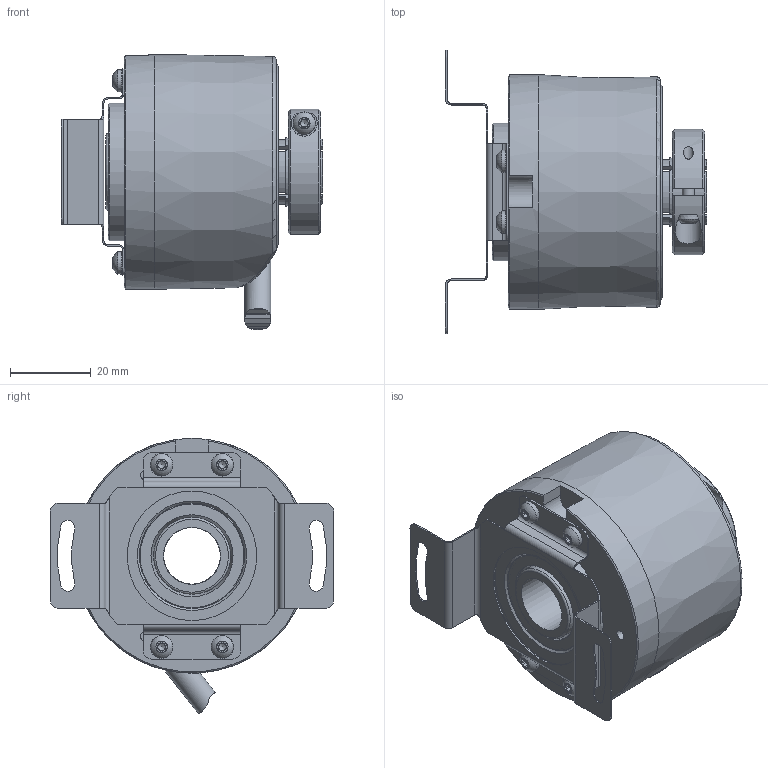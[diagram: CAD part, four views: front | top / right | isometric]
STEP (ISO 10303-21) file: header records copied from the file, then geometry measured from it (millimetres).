
FILE_DESCRIPTION( ( 'Unknown' ), '1' );
FILE_NAME( '//emea.baumernet.org/de05d/RD/caddy/k/GESAMT/EIL580/EIL580/3D/STEP/MarCom/EIL580-TTB4.7Px.xxxxx.A.stp', 'Unknown', ( 'Unknown' ), ( 'Unknown' ), 'PSStep 19.0.9', 'Unknown', ' ' );
FILE_SCHEMA( ( 'AUTOMOTIVE_DESIGN { 1 0 10303 214 1 1 1 1 }' ) );
Length unit declared in the file: millimetre
Products named in the file (2): Assem1; 1_83
Assembly tree (1 placements, depth 2):
  Assem1
    1_83
Bounding box: 64.5 x 70 x 67.97 mm (x, y, z)
Volume: 96833.4 mm3; surface area: 26876.7 mm2
Topology: 1 solids, 15 shells, 541 faces, 1321 edges, 832 vertices
Faces by surface type: plane 213, cylinder 196, cone 53, bspline 36, torus 28, sphere 11, revolution 4
Full cylindrical faces by diameter (mm): 2.46 x15, 3 x5, 3.2 x4, 3.4 x1, 4 x1, 5.5 x1, 6.5 x1, 6.97 x1, 7 x1, 7.7 x1, 8.5 x1, 14 x1, 14.1 x1, 16.8 x1, 16.95 x1, 18.262 x1, 18.704 x1, 19 x1, 19.312 x1, 20.262 x1, 20.704 x1, 21.927 x1, 22.558 x1, 23 x1, 23.904 x1, 24.927 x1, 25.2 x1, 25.558 x1, 26 x2, 32 x1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
Entity records: 22760 total; most frequent: CARTESIAN_POINT 6311, DIRECTION 2589, ORIENTED_EDGE 2356, EDGE_CURVE 1178, AXIS2_PLACEMENT_3D 1124, VERTEX_POINT 806, EDGE_LOOP 710, FACE_OUTER_BOUND 607
